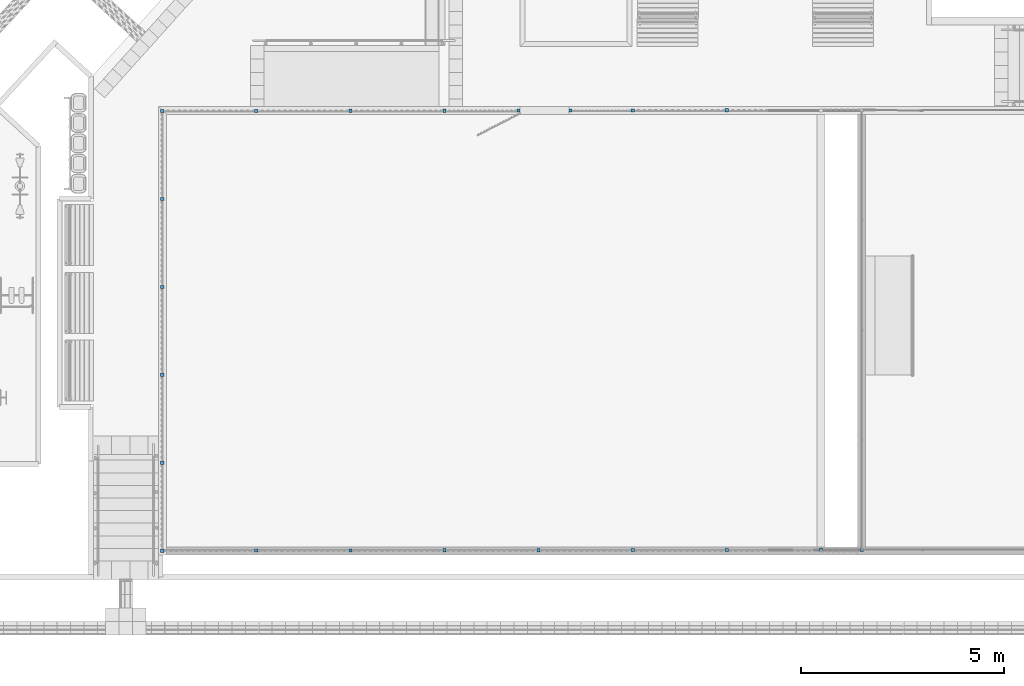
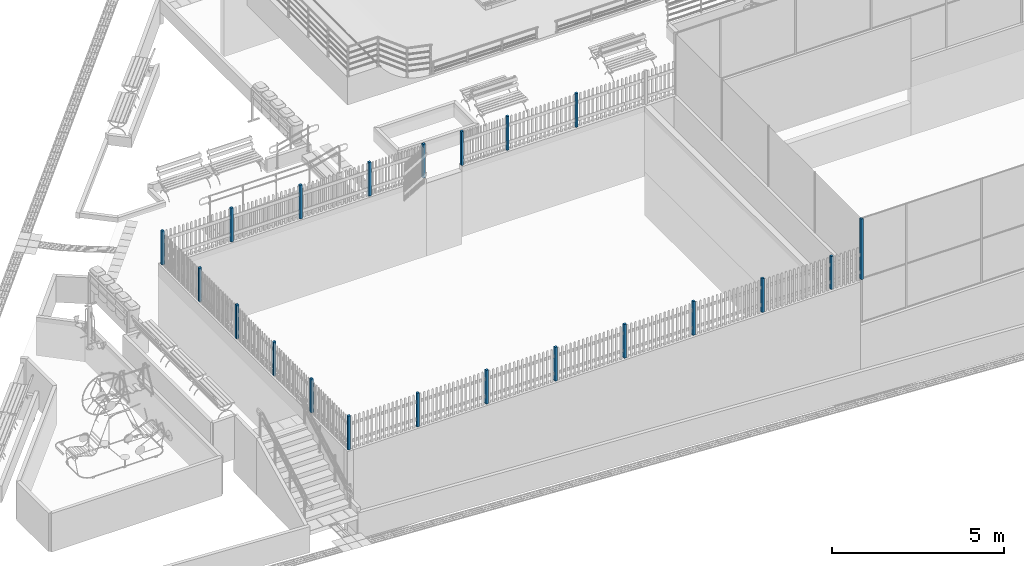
# One storey, part 1 of 237: 22 columns.
"""IFC2X3 building model written with IfcOpenShell, lengths in millimetres."""

from ifc_helpers import new_model, entity, si_unit, converted_unit, derived_unit, money_unit, direction, frame, origin_with_axes, origin_2d_with_axis, place, context, subcontext, project, spatial, rectangle, extrude, material, type_object, element, save


model = new_model("IFC2X3")

# Units and contexts
model_context = context("Model", 3, precision=0.01, world=origin_with_axes(), true_north=direction((0.0, 1.0)))
body_context = subcontext(model_context, "Body", "Model", "MODEL_VIEW")
ifc_project = project(units=[si_unit("LENGTHUNIT", "METRE", prefix="MILLI"), si_unit("AREAUNIT", "SQUARE_METRE"), si_unit("VOLUMEUNIT", "CUBIC_METRE"), converted_unit("PLANEANGLEUNIT", "DEGREE", entity("IfcPlaneAngleMeasure", 0.0174532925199), si_unit("PLANEANGLEUNIT", "RADIAN"), dimensions=[0, 0, 0, 0, 0, 0, 0]), money_unit("USD"), converted_unit("TIMEUNIT", "Year", entity("IfcTimeMeasure", 31556926.0), si_unit("TIMEUNIT", "SECOND"), dimensions=[0, 0, 1, 0, 0, 0, 0]), si_unit("MASSUNIT", "GRAM", prefix="KILO"), si_unit("THERMODYNAMICTEMPERATUREUNIT", "DEGREE_CELSIUS"), si_unit("LUMINOUSINTENSITYUNIT", "LUMEN"), si_unit("ENERGYUNIT", "JOULE", prefix="MEGA"), derived_unit("THERMALCONDUCTANCEUNIT", [(si_unit("POWERUNIT", "WATT"), 1), (si_unit("LENGTHUNIT", "METRE"), -1), (si_unit("THERMODYNAMICTEMPERATUREUNIT", "KELVIN"), -1)]), derived_unit("SPECIFICHEATCAPACITYUNIT", [(si_unit("ENERGYUNIT", "JOULE"), 1), (si_unit("MASSUNIT", "GRAM", prefix="KILO"), -1), (si_unit("THERMODYNAMICTEMPERATUREUNIT", "KELVIN"), -1)]), derived_unit("MASSDENSITYUNIT", [(si_unit("MASSUNIT", "GRAM", prefix="KILO"), 1), (si_unit("VOLUMEUNIT", "CUBIC_METRE"), -1)])], contexts=[model_context])

# Site, building, storey
site_placement = place(None, origin_with_axes())
site = spatial("IfcSite", under=ifc_project, at=site_placement, Name="Local", CompositionType="ELEMENT")
building_placement = place(site_placement, origin_with_axes())
building = spatial("IfcBuilding", under=site, at=building_placement, Name="Construção", CompositionType="ELEMENT")
storey_placement = place(building_placement, origin_with_axes())
storey = spatial("IfcBuildingStorey", under=building, at=storey_placement, Name="Pavimento Térreo", CompositionType="ELEMENT", Elevation=0.0)

# Columns
ifc_material = material(Name="Aço - Inoxidável")
column_type = type_object("IfcColumnType", Name="Aço - Inoxidável 80 x 80", PredefinedType="NOTDEFINED")
for number, where, z_axis, x_axis, name in (
    (1, (51022.4440926, 23553.3027437, -1173.86351895), (0.0, 0.0, 1.0), (1.0, 0.0, 0.0), "Pil-019"),
    (2, (51517.4629938, 12737.9592891, -1173.86351895), (0.0, 0.0, 1.0), (1.0, 0.0, 0.0), "Pil-019"),
    (3, (49202.4963196, 12734.9555602, -1173.86351895), (0.0, 0.0, 1.0), (1.0, 0.0, 0.0), "Pil-019"),
):
    element("IfcColumn", number, at=place(storey_placement, frame(where, z_axis=z_axis, x_axis=x_axis)), inside=storey, type_object=column_type, material=ifc_material, Name=name, context=body_context, shape_type="SweptSolid", body=[
        extrude(rectangle(XDim=80.0, YDim=80.0, at=origin_2d_with_axis()), origin_with_axes(), (0.0, 0.0, 1.0), 1200.0),
    ])
column_1_placement = place(storey_placement, frame((58462.3630166, 12746.9704756, -1173.86351895), z_axis=(0.0, 0.0, 1.0), x_axis=(1.0, 0.0, 0.0)))
element("IfcColumn", 4, at=column_1_placement, inside=storey, type_object=column_type, material=ifc_material, Name="Pil-019", context=body_context, shape_type="SweptSolid", body=[
    extrude(rectangle(XDim=80.0, YDim=80.0, at=origin_2d_with_axis()), origin_with_axes(), (0.0, 0.0, 1.0), 1171.36054535),
])
for number, where, z_axis, x_axis, name in (
    (5, (42257.5962968, 17052.0817555, -1173.86351895), (0.0, 0.0, 1.0), (1.0, 0.0, 0.0), "Pil-019"),
    (6, (46887.5296453, 23547.295286, -1173.86351895), (0.0, 0.0, 1.0), (1.0, 0.0, 0.0), "Pil-019"),
    (7, (46887.5296453, 12731.9518314, -1173.86351895), (0.0, 0.0, 1.0), (1.0, 0.0, 0.0), "Pil-019"),
    (8, (49202.4963196, 23550.2990148, -1173.86351895), (0.0, 0.0, 1.0), (1.0, 0.0, 0.0), "Pil-019"),
    (9, (53832.4296681, 12740.9630179, -1173.86351895), (0.0, 0.0, 1.0), (1.0, 0.0, 0.0), "Pil-019"),
    (10, (42257.5962968, 12725.9443737, -1173.86351895), (0.0, 0.0, 1.0), (1.0, 0.0, 0.0), "Pil-019"),
    (11, (42257.5962968, 21378.2191373, -1173.86351895), (0.0, 0.0, 1.0), (1.0, 0.0, 0.0), "Pil-019"),
    (12, (56147.3963424, 12743.9667468, -1173.86351895), (0.0, 0.0, 1.0), (1.0, 0.0, 0.0), "Pil-019"),
    (13, (52302.4440926, 23553.3027437, -1173.86351895), (0.0, 0.0, 1.0), (1.0, 0.0, 0.0), "Pil-019"),
    (14, (42257.5962968, 23541.2878283, -1173.86351895), (0.0, 0.0, 1.0), (1.0, 0.0, 0.0), "Pil-019"),
    (15, (42257.5962968, 23541.2878283, -1173.86351895), (0.0, 0.0, 1.0), (1.0, 0.0, 0.0), "Pil-019"),
    (16, (44572.5629711, 12728.9481025, -1173.86351895), (0.0, 0.0, 1.0), (1.0, 0.0, 0.0), "Pil-019"),
    (17, (42257.5962968, 19215.1504464, -1173.86351895), (0.0, 0.0, 1.0), (1.0, 0.0, 0.0), "Pil-019"),
    (18, (53832.4296681, 23556.3064725, -1173.86351895), (0.0, 0.0, 1.0), (1.0, 0.0, 0.0), "Pil-019"),
    (19, (44572.5629711, 23544.2915571, -1173.86351895), (0.0, 0.0, 1.0), (1.0, 0.0, 0.0), "Pil-019"),
    (20, (56147.3963424, 23559.3102013, -1173.86351895), (0.0, 0.0, 1.0), (1.0, 0.0, 0.0), "Pil-019"),
    (21, (42257.5962968, 14889.0130646, -1173.86351895), (0.0, 0.0, 1.0), (1.0, 0.0, 0.0), "Pil-019"),
):
    element("IfcColumn", number, at=place(storey_placement, frame(where, z_axis=z_axis, x_axis=x_axis)), inside=storey, type_object=column_type, material=ifc_material, Name=name, context=body_context, shape_type="SweptSolid", body=[
        extrude(rectangle(XDim=80.0, YDim=80.0, at=origin_2d_with_axis()), origin_with_axes(), (0.0, 0.0, 1.0), 1200.0),
    ])
column_2_placement = place(storey_placement, frame((59468.9276599, 12745.7585136, -1173.86351895), z_axis=(0.0, 0.0, 1.0), x_axis=(1.0, 0.0, 0.0)))
element("IfcColumn", 22, at=column_2_placement, inside=storey, type_object=column_type, material=ifc_material, Name="Pil-019", context=body_context, shape_type="SweptSolid", body=[
    extrude(rectangle(XDim=80.0, YDim=80.0, at=origin_2d_with_axis()), origin_with_axes(), (0.0, 0.0, 1.0), 2147.09587633),
])

save(model, "model.ifc")
